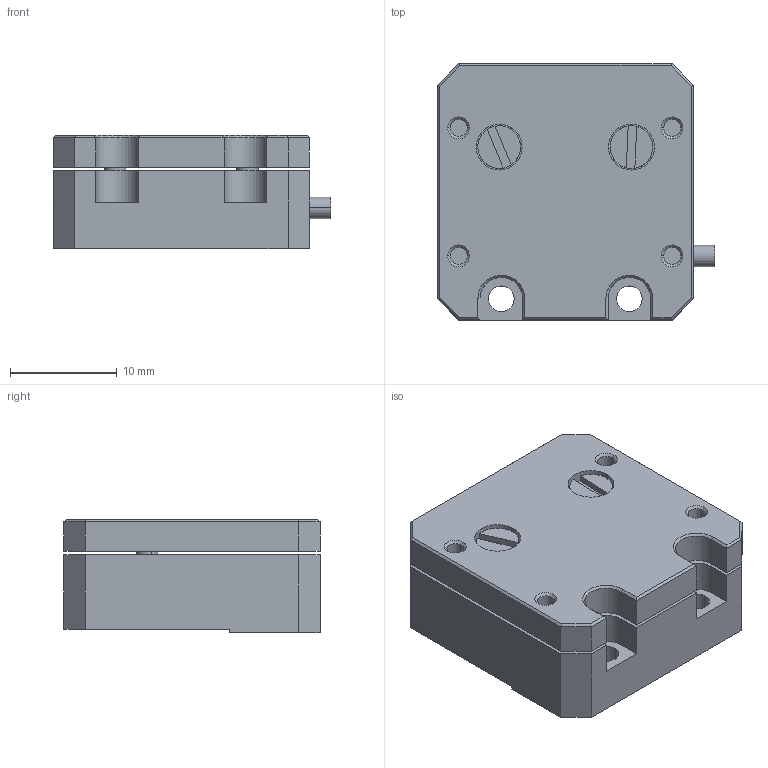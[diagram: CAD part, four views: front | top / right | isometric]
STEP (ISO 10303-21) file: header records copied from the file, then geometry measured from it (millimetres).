
FILE_DESCRIPTION (( 'STEP AP203' ), '1' );
FILE_NAME ('N18.X5K-B1蚾饜极25.04.03.STEP', '2025-04-03T06:37:44', ( 'Windows User' ), ( 'P R C' ), 'SwSTEP 2.0', 'SolidWorks 2016', '' );
FILE_SCHEMA (( 'CONFIG_CONTROL_DESIGN' ));
Length unit declared in the file: millimetre
Products named in the file (1): N18.X5K-B1蚾饜极25.04.03
Bounding box: 26 x 24 x 10.6 mm (x, y, z)
Volume: 5441.2 mm3; surface area: 3568.3 mm2
Topology: 4 solids, 4 shells, 120 faces, 294 edges, 188 vertices
Faces by surface type: plane 74, cylinder 36, cone 10
Entity records: 3619 total; most frequent: DIRECTION 626, CARTESIAN_POINT 603, ORIENTED_EDGE 588, EDGE_CURVE 294, AXIS2_PLACEMENT_3D 211, LINE 204, VECTOR 204, VERTEX_POINT 188
